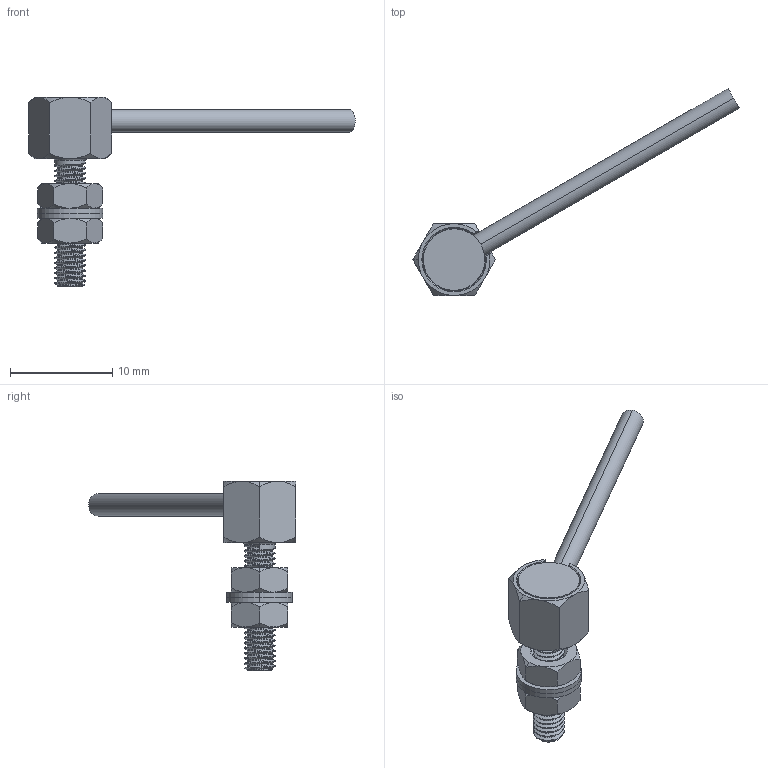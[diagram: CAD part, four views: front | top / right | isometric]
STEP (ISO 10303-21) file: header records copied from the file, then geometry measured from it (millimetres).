
FILE_DESCRIPTION (( 'STEP AP214' ), '1' );
FILE_NAME ('TM-R31.STEP', '2025-09-26T02:26:13', ( 'Windows User' ), ( 'P R C' ), 'SwSTEP 2.0', 'SolidWorks 2023', '' );
FILE_SCHEMA (( 'AUTOMOTIVE_DESIGN' ));
Length unit declared in the file: millimetre
Products named in the file (7): SD1200031-6.4×0.5 垫片; SD1300028-螺帽M3×0.5-SW5.5×2.4; TM-R31; 16×0.25光纤线; SD1600347-2.2光纤线; SD1100988-光纤头后盖Ф6.0×1.0mm; SD1100989-TM-R31壳体（带螺纹）
Assembly tree (8 placements, depth 2):
  TM-R31
    SD1100989-TM-R31壳体（带螺纹）
    16×0.25光纤线
    SD1600347-2.2光纤线
    SD1100988-光纤头后盖Ф6.0×1.0mm
    SD1200031-6.4×0.5 垫片  x2
    SD1300028-螺帽M3×0.5-SW5.5×2.4  x2
Bounding box: 31.87 x 20.2 x 18.5 mm (x, y, z)
Volume: 428.2 mm3; surface area: 1303.1 mm2
Topology: 25 solids, 25 shells, 269 faces, 597 edges, 379 vertices
Faces by surface type: cylinder 124, plane 75, cone 59, bspline 9, torus 2
Entity records: 10845 total; most frequent: CARTESIAN_POINT 5828, ORIENTED_EDGE 990, DIRECTION 932, EDGE_CURVE 495, AXIS2_PLACEMENT_3D 389, VERTEX_POINT 316, EDGE_LOOP 233, ADVANCED_FACE 226
